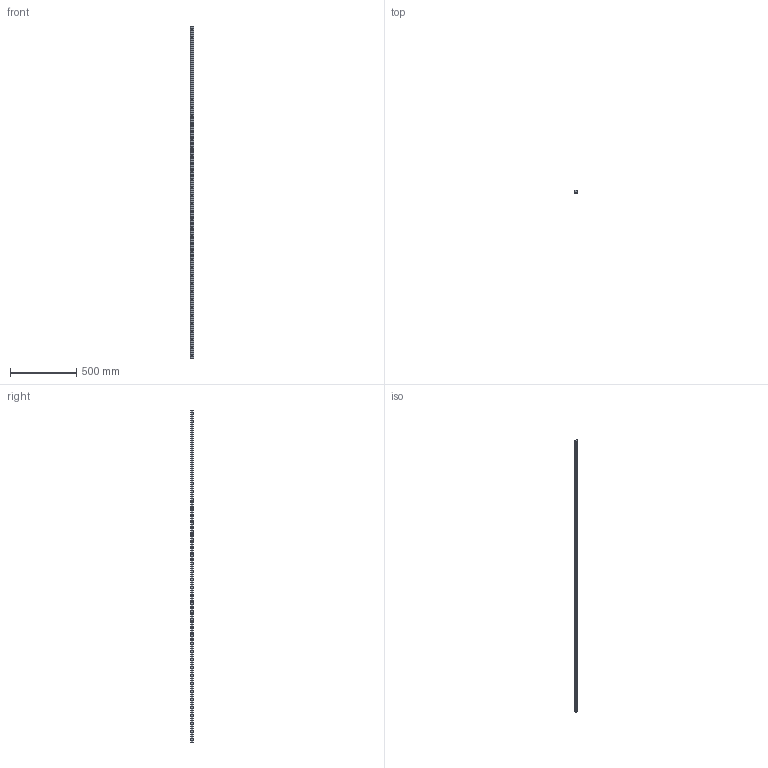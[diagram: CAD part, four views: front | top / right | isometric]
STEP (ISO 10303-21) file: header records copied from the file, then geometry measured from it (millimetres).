
FILE_DESCRIPTION (( 'STEP AP203' ), '1' );
FILE_NAME ('L1016.BRF25-2500.step', '2019-06-13T08:42:36', ( '' ), ( '' ), 'SwSTEP 2.0', 'SolidWorks 2017', '' );
FILE_SCHEMA (( 'CONFIG_CONTROL_DESIGN' ));
Length unit declared in the file: millimetre
Products named in the file (1): L1016.BRF25-2500
Bounding box: 23 x 19.2 x 2500 mm (x, y, z)
Volume: 954489.4 mm3; surface area: 230194.1 mm2
Topology: 1 solids, 1 shells, 320 faces, 744 edges, 426 vertices
Faces by surface type: cylinder 172, cone 84, plane 64
Entity records: 8629 total; most frequent: DIRECTION 1646, CARTESIAN_POINT 1407, ORIENTED_EDGE 1320, AXIS2_PLACEMENT_3D 665, EDGE_CURVE 660, VERTEX_POINT 426, EDGE_LOOP 404, CIRCLE 344
